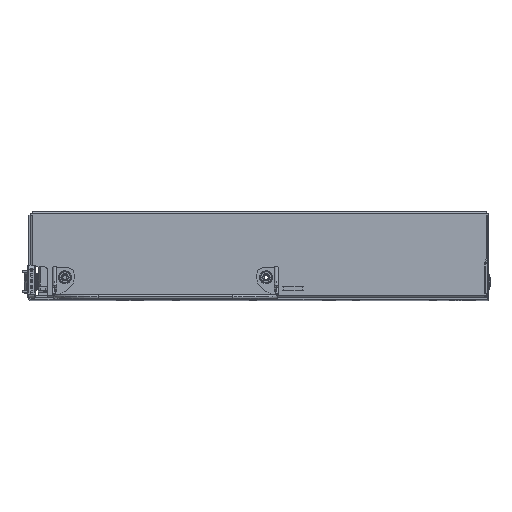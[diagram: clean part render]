
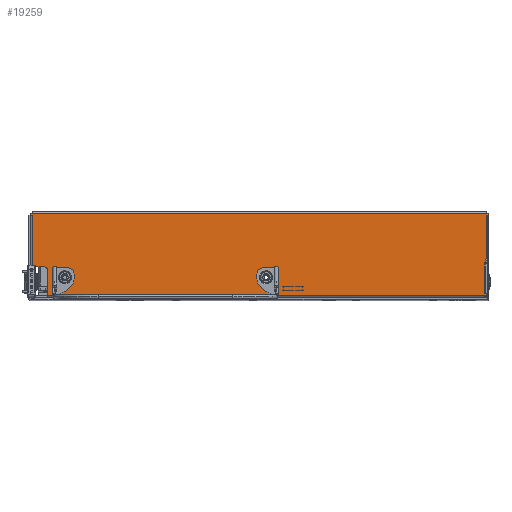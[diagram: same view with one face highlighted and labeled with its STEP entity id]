
A CAD part, top view. The second image highlights one B-rep face of the part: STEP entity #19259.
In plain terms, the highlighted planar face has unit normal (0, 0, 1).
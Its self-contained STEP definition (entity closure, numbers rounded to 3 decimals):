
#16270=DIRECTION('',(1.,0.,0.));
#16271=VECTOR('',#16270,204.1);
#16272=CARTESIAN_POINT('',(-98.5,0.,0.8));
#16273=LINE('',#16272,#16271);
#16278=CARTESIAN_POINT('',(103.4,18.393,0.8));
#16279=DIRECTION('',(0.,0.,-1.));
#16280=DIRECTION('',(1.,0.,0.));
#16281=AXIS2_PLACEMENT_3D('',#16278,#16279,#16280);
#16283=DIRECTION('',(-0.258,-0.966,0.));
#16284=VECTOR('',#16283,2.319);
#16285=CARTESIAN_POINT('',(106.299,17.62,0.8));
#16286=LINE('',#16285,#16284);
#16287=CARTESIAN_POINT('',(108.6,14.607,0.8));
#16288=DIRECTION('',(0.,0.,1.));
#16289=DIRECTION('',(-0.966,0.258,0.));
#16290=AXIS2_PLACEMENT_3D('',#16287,#16288,#16289);
#16292=DIRECTION('',(0.,-1.,0.));
#16293=VECTOR('',#16292,0.9);
#16294=CARTESIAN_POINT('',(105.6,0.9,0.8));
#16295=LINE('',#16294,#16293);
#16296=CARTESIAN_POINT('',(-100.5,11.4,0.8));
#16297=DIRECTION('',(0.,0.,1.));
#16298=DIRECTION('',(1.,0.,0.));
#16299=AXIS2_PLACEMENT_3D('',#16296,#16297,#16298);
#16301=DIRECTION('',(-1.,0.,0.));
#16302=VECTOR('',#16301,5.1);
#16303=CARTESIAN_POINT('',(-100.5,13.4,0.8));
#16304=LINE('',#16303,#16302);
#16305=DIRECTION('',(0.,1.,0.));
#16306=VECTOR('',#16305,0.9);
#16307=CARTESIAN_POINT('',(-105.6,37.3,0.8));
#16308=LINE('',#16307,#16306);
#16309=DIRECTION('',(0.,-1.,0.));
#16310=VECTOR('',#16309,0.9);
#16311=CARTESIAN_POINT('',(106.4,38.2,0.8));
#16312=LINE('',#16311,#16310);
#16313=CARTESIAN_POINT('',(-90.5,8.4,0.8));
#16314=DIRECTION('',(0.,0.,1.));
#16315=DIRECTION('',(-1.,0.,0.));
#16316=AXIS2_PLACEMENT_3D('',#16313,#16314,#16315);
#16318=CARTESIAN_POINT('',(-90.5,8.4,0.8));
#16319=DIRECTION('',(0.,0.,1.));
#16320=DIRECTION('',(1.,0.,0.));
#16321=AXIS2_PLACEMENT_3D('',#16318,#16319,#16320);
#16323=CARTESIAN_POINT('',(3.5,8.4,0.8));
#16324=DIRECTION('',(0.,0.,1.));
#16325=DIRECTION('',(-1.,0.,0.));
#16326=AXIS2_PLACEMENT_3D('',#16323,#16324,#16325);
#16328=CARTESIAN_POINT('',(3.5,8.4,0.8));
#16329=DIRECTION('',(0.,0.,1.));
#16330=DIRECTION('',(1.,0.,0.));
#16331=AXIS2_PLACEMENT_3D('',#16328,#16329,#16330);
#16337=DIRECTION('',(0.,1.,0.));
#16338=VECTOR('',#16337,18.907);
#16339=CARTESIAN_POINT('',(106.4,18.393,0.8));
#16340=LINE('',#16339,#16338);
#16464=DIRECTION('',(-1.,0.,0.));
#16465=VECTOR('',#16464,212.);
#16466=CARTESIAN_POINT('',(106.4,38.2,0.8));
#16467=LINE('',#16466,#16465);
#16821=DIRECTION('',(0.,-1.,0.));
#16822=VECTOR('',#16821,23.9);
#16823=CARTESIAN_POINT('',(-105.6,37.3,0.8));
#16824=LINE('',#16823,#16822);
#16879=DIRECTION('',(0.,-1.,0.));
#16880=VECTOR('',#16879,10.9);
#16881=CARTESIAN_POINT('',(-98.5,11.4,0.8));
#16882=LINE('',#16881,#16880);
#16887=DIRECTION('',(0.,-1.,0.));
#16888=VECTOR('',#16887,0.5);
#16889=CARTESIAN_POINT('',(-98.5,0.5,0.8));
#16890=LINE('',#16889,#16888);
#17413=DIRECTION('',(0.,1.,0.));
#17414=VECTOR('',#17413,13.707);
#17415=CARTESIAN_POINT('',(105.6,0.9,0.8));
#17416=LINE('',#17415,#17414);
#18421=CARTESIAN_POINT('',(105.6,0.,0.8));
#18422=VERTEX_POINT('',#18421);
#18425=CARTESIAN_POINT('',(-98.5,0.,0.8));
#18426=VERTEX_POINT('',#18425);
#18479=CARTESIAN_POINT('',(-88.8,8.4,0.8));
#18480=VERTEX_POINT('',#18479);
#18481=CARTESIAN_POINT('',(-92.2,8.4,0.8));
#18482=VERTEX_POINT('',#18481);
#18483=CARTESIAN_POINT('',(106.4,18.393,0.8));
#18484=CARTESIAN_POINT('',(106.4,37.3,0.8));
#18485=VERTEX_POINT('',#18483);
#18486=VERTEX_POINT('',#18484);
#18487=CARTESIAN_POINT('',(106.299,17.62,0.8));
#18488=VERTEX_POINT('',#18487);
#18489=CARTESIAN_POINT('',(105.701,15.38,0.8));
#18490=VERTEX_POINT('',#18489);
#18491=CARTESIAN_POINT('',(105.6,14.607,0.8));
#18492=VERTEX_POINT('',#18491);
#18493=CARTESIAN_POINT('',(105.6,0.9,0.8));
#18494=VERTEX_POINT('',#18493);
#18495=CARTESIAN_POINT('',(-98.5,0.5,0.8));
#18496=VERTEX_POINT('',#18495);
#18497=CARTESIAN_POINT('',(-98.5,11.4,0.8));
#18498=VERTEX_POINT('',#18497);
#18499=CARTESIAN_POINT('',(-100.5,13.4,0.8));
#18500=VERTEX_POINT('',#18499);
#18501=CARTESIAN_POINT('',(-105.6,13.4,0.8));
#18502=VERTEX_POINT('',#18501);
#18503=CARTESIAN_POINT('',(-105.6,37.3,0.8));
#18504=VERTEX_POINT('',#18503);
#18505=CARTESIAN_POINT('',(-105.6,38.2,0.8));
#18506=VERTEX_POINT('',#18505);
#18507=CARTESIAN_POINT('',(106.4,38.2,0.8));
#18508=VERTEX_POINT('',#18507);
#18509=CARTESIAN_POINT('',(1.8,8.4,0.8));
#18510=CARTESIAN_POINT('',(5.2,8.4,0.8));
#18511=VERTEX_POINT('',#18509);
#18512=VERTEX_POINT('',#18510);
#19211=CARTESIAN_POINT('',(0.,0.,0.8));
#19212=DIRECTION('',(0.,0.,1.));
#19213=DIRECTION('',(1.,0.,0.));
#19214=AXIS2_PLACEMENT_3D('',#19211,#19212,#19213);
#19215=PLANE('',#19214);
#19217=ORIENTED_EDGE('',*,*,#19216,.F.);
#19219=ORIENTED_EDGE('',*,*,#19218,.T.);
#19221=ORIENTED_EDGE('',*,*,#19220,.T.);
#19223=ORIENTED_EDGE('',*,*,#19222,.T.);
#19225=ORIENTED_EDGE('',*,*,#19224,.F.);
#19227=ORIENTED_EDGE('',*,*,#19226,.T.);
#19228=ORIENTED_EDGE('',*,*,#19204,.F.);
#19230=ORIENTED_EDGE('',*,*,#19229,.F.);
#19232=ORIENTED_EDGE('',*,*,#19231,.F.);
#19234=ORIENTED_EDGE('',*,*,#19233,.T.);
#19236=ORIENTED_EDGE('',*,*,#19235,.T.);
#19238=ORIENTED_EDGE('',*,*,#19237,.F.);
#19240=ORIENTED_EDGE('',*,*,#19239,.T.);
#19242=ORIENTED_EDGE('',*,*,#19241,.F.);
#19244=ORIENTED_EDGE('',*,*,#19243,.T.);
#19245=EDGE_LOOP('',(#19217,#19219,#19221,#19223,#19225,#19227,#19228,#19230,
#19232,#19234,#19236,#19238,#19240,#19242,#19244));
#19246=FACE_OUTER_BOUND('',#19245,.F.);
#19248=ORIENTED_EDGE('',*,*,#19247,.T.);
#19250=ORIENTED_EDGE('',*,*,#19249,.T.);
#19251=EDGE_LOOP('',(#19248,#19250));
#19252=FACE_BOUND('',#19251,.F.);
#19254=ORIENTED_EDGE('',*,*,#19253,.T.);
#19256=ORIENTED_EDGE('',*,*,#19255,.T.);
#19257=EDGE_LOOP('',(#19254,#19256));
#19258=FACE_BOUND('',#19257,.F.);
#16282=CIRCLE('',#16281,3.);
#16291=CIRCLE('',#16290,3.);
#16300=CIRCLE('',#16299,2.);
#16317=CIRCLE('',#16316,1.7);
#16322=CIRCLE('',#16321,1.7);
#16327=CIRCLE('',#16326,1.7);
#16332=CIRCLE('',#16331,1.7);
#19204=EDGE_CURVE('',#18426,#18422,#16273,.T.);
#19216=EDGE_CURVE('',#18485,#18486,#16340,.T.);
#19218=EDGE_CURVE('',#18485,#18488,#16282,.T.);
#19220=EDGE_CURVE('',#18488,#18490,#16286,.T.);
#19222=EDGE_CURVE('',#18490,#18492,#16291,.T.);
#19224=EDGE_CURVE('',#18494,#18492,#17416,.T.);
#19226=EDGE_CURVE('',#18494,#18422,#16295,.T.);
#19229=EDGE_CURVE('',#18496,#18426,#16890,.T.);
#19231=EDGE_CURVE('',#18498,#18496,#16882,.T.);
#19233=EDGE_CURVE('',#18498,#18500,#16300,.T.);
#19235=EDGE_CURVE('',#18500,#18502,#16304,.T.);
#19237=EDGE_CURVE('',#18504,#18502,#16824,.T.);
#19239=EDGE_CURVE('',#18504,#18506,#16308,.T.);
#19241=EDGE_CURVE('',#18508,#18506,#16467,.T.);
#19243=EDGE_CURVE('',#18508,#18486,#16312,.T.);
#19247=EDGE_CURVE('',#18482,#18480,#16317,.T.);
#19249=EDGE_CURVE('',#18480,#18482,#16322,.T.);
#19253=EDGE_CURVE('',#18511,#18512,#16327,.T.);
#19255=EDGE_CURVE('',#18512,#18511,#16332,.T.);
#19259=ADVANCED_FACE('',(#19246,#19252,#19258),#19215,.T.);
